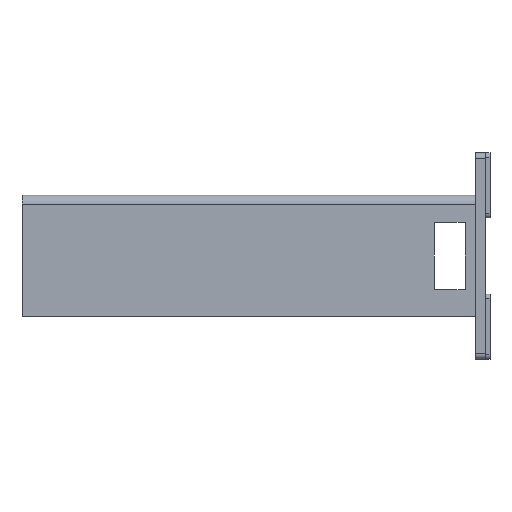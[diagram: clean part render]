
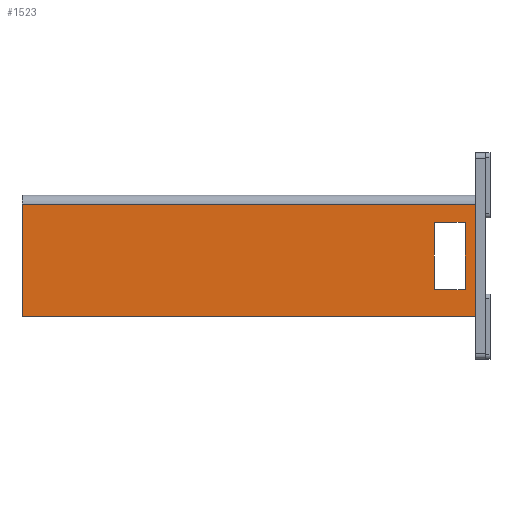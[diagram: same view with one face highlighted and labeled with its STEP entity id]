
A CAD part, left-side view. The second image highlights one B-rep face of the part: STEP entity #1523.
In plain terms, the highlighted planar face has unit normal (-1, 0, 0).
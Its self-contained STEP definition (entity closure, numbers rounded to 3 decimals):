
#32 = DIRECTION ( 'NONE',  ( 0., 0., -1. ) ) ;
#101 = CARTESIAN_POINT ( 'NONE',  ( -118., 99.9, 65. ) ) ;
#137 = DIRECTION ( 'NONE',  ( 0., 0., -1. ) ) ;
#195 = ORIENTED_EDGE ( 'NONE', *, *, #2480, .T. ) ;
#207 = DIRECTION ( 'NONE',  ( 0., 1., 0. ) ) ;
#259 = CARTESIAN_POINT ( 'NONE',  ( -118., 20., -118. ) ) ;
#270 = AXIS2_PLACEMENT_3D ( 'NONE', #4681, #2691, #3401 ) ;
#311 = VERTEX_POINT ( 'NONE', #2464 ) ;
#312 = CARTESIAN_POINT ( 'NONE',  ( -118., 40.1, 65. ) ) ;
#333 = VERTEX_POINT ( 'NONE', #2941 ) ;
#336 = ORIENTED_EDGE ( 'NONE', *, *, #4667, .T. ) ;
#547 = VERTEX_POINT ( 'NONE', #4802 ) ;
#688 = EDGE_CURVE ( 'NONE', #5345, #4656, #2634, .T. ) ;
#763 = VERTEX_POINT ( 'NONE', #312 ) ;
#764 = EDGE_CURVE ( 'NONE', #3326, #547, #4441, .T. ) ;
#773 = DIRECTION ( 'NONE',  ( 0., 0., 1. ) ) ;
#778 = EDGE_LOOP ( 'NONE', ( #4255, #3958, #3302, #195 ) ) ;
#782 = LINE ( 'NONE', #259, #5949 ) ;
#920 = CARTESIAN_POINT ( 'NONE',  ( -118., 99.9, -64.9 ) ) ;
#966 = LINE ( 'NONE', #4487, #2264 ) ;
#1001 = CARTESIAN_POINT ( 'NONE',  ( -118., 900., 100. ) ) ;
#1195 = VECTOR ( 'NONE', #1322, 1000. ) ;
#1322 = DIRECTION ( 'NONE',  ( 0., 0., -1. ) ) ;
#1356 = LINE ( 'NONE', #101, #4929 ) ;
#1409 = EDGE_CURVE ( 'NONE', #311, #333, #966, .T. ) ;
#1469 = VECTOR ( 'NONE', #2071, 1000. ) ;
#1516 = LINE ( 'NONE', #2007, #2817 ) ;
#1523 = ADVANCED_FACE ( 'NONE', ( #2485, #6180 ), #5646, .F. ) ;
#1540 = EDGE_LOOP ( 'NONE', ( #4367, #4928, #2912, #5087, #4517, #5353, #4416, #336 ) ) ;
#1556 = CARTESIAN_POINT ( 'NONE',  ( -118., 40., 64.9 ) ) ;
#1563 = VECTOR ( 'NONE', #207, 1000. ) ;
#1652 = EDGE_CURVE ( 'NONE', #4725, #5587, #6105, .T. ) ;
#1810 = AXIS2_PLACEMENT_3D ( 'NONE', #920, #3777, #4334 ) ;
#2007 = CARTESIAN_POINT ( 'NONE',  ( -118., 900., -118. ) ) ;
#2071 = DIRECTION ( 'NONE',  ( 0., -1., 0. ) ) ;
#2121 = DIRECTION ( 'NONE',  ( 0., 0., 1. ) ) ;
#2124 = EDGE_CURVE ( 'NONE', #333, #2190, #5510, .T. ) ;
#2174 = DIRECTION ( 'NONE',  ( 1., 0., 0. ) ) ;
#2190 = VERTEX_POINT ( 'NONE', #4871 ) ;
#2234 = VERTEX_POINT ( 'NONE', #5196 ) ;
#2261 = DIRECTION ( 'NONE',  ( 0., 0., -1. ) ) ;
#2264 = VECTOR ( 'NONE', #4466, 1000. ) ;
#2298 = EDGE_CURVE ( 'NONE', #2234, #547, #782, .T. ) ;
#2464 = CARTESIAN_POINT ( 'NONE',  ( -118., 100., -64.9 ) ) ;
#2480 = EDGE_CURVE ( 'NONE', #4801, #2234, #5875, .T. ) ;
#2485 = FACE_OUTER_BOUND ( 'NONE', #778, .T. ) ;
#2494 = DIRECTION ( 'NONE',  ( 1., 0., 0. ) ) ;
#2525 = CIRCLE ( 'NONE', #3381, 0.1 ) ;
#2634 = LINE ( 'NONE', #4231, #1195 ) ;
#2691 = DIRECTION ( 'NONE',  ( 1., 0., 0. ) ) ;
#2817 = VECTOR ( 'NONE', #2121, 1000. ) ;
#2912 = ORIENTED_EDGE ( 'NONE', *, *, #1652, .T. ) ;
#2941 = CARTESIAN_POINT ( 'NONE',  ( -118., 100., 64.9 ) ) ;
#3125 = CARTESIAN_POINT ( 'NONE',  ( -118., 99.9, -65. ) ) ;
#3189 = CARTESIAN_POINT ( 'NONE',  ( -118., 40.1, -64.9 ) ) ;
#3302 = ORIENTED_EDGE ( 'NONE', *, *, #5663, .F. ) ;
#3326 = VERTEX_POINT ( 'NONE', #1001 ) ;
#3365 = CIRCLE ( 'NONE', #1810, 0.1 ) ;
#3381 = AXIS2_PLACEMENT_3D ( 'NONE', #4994, #2174, #2261 ) ;
#3401 = DIRECTION ( 'NONE',  ( 0., 0., -1. ) ) ;
#3772 = CARTESIAN_POINT ( 'NONE',  ( -118., 40., -64.9 ) ) ;
#3777 = DIRECTION ( 'NONE',  ( 1., 0., 0. ) ) ;
#3792 = CARTESIAN_POINT ( 'NONE',  ( -118., 40.1, -65. ) ) ;
#3795 = EDGE_CURVE ( 'NONE', #4656, #4725, #4723, .T. ) ;
#3859 = AXIS2_PLACEMENT_3D ( 'NONE', #3189, #2494, #32 ) ;
#3958 = ORIENTED_EDGE ( 'NONE', *, *, #764, .F. ) ;
#4162 = CARTESIAN_POINT ( 'NONE',  ( -118., 900., 100. ) ) ;
#4231 = CARTESIAN_POINT ( 'NONE',  ( -118., 40., 64.9 ) ) ;
#4255 = ORIENTED_EDGE ( 'NONE', *, *, #2298, .T. ) ;
#4281 = VECTOR ( 'NONE', #4641, 1000. ) ;
#4334 = DIRECTION ( 'NONE',  ( 0., 0., 1. ) ) ;
#4367 = ORIENTED_EDGE ( 'NONE', *, *, #688, .T. ) ;
#4416 = ORIENTED_EDGE ( 'NONE', *, *, #5115, .T. ) ;
#4441 = LINE ( 'NONE', #4162, #4281 ) ;
#4466 = DIRECTION ( 'NONE',  ( 0., 0., 1. ) ) ;
#4487 = CARTESIAN_POINT ( 'NONE',  ( -118., 100., 64.9 ) ) ;
#4517 = ORIENTED_EDGE ( 'NONE', *, *, #1409, .T. ) ;
#4641 = DIRECTION ( 'NONE',  ( 0., -1., 0. ) ) ;
#4656 = VERTEX_POINT ( 'NONE', #3772 ) ;
#4667 = EDGE_CURVE ( 'NONE', #763, #5345, #2525, .T. ) ;
#4681 = CARTESIAN_POINT ( 'NONE',  ( -118., 900., -118. ) ) ;
#4723 = CIRCLE ( 'NONE', #3859, 0.1 ) ;
#4725 = VERTEX_POINT ( 'NONE', #3792 ) ;
#4801 = VERTEX_POINT ( 'NONE', #5013 ) ;
#4802 = CARTESIAN_POINT ( 'NONE',  ( -118., 20., 100. ) ) ;
#4871 = CARTESIAN_POINT ( 'NONE',  ( -118., 99.9, 65. ) ) ;
#4878 = CARTESIAN_POINT ( 'NONE',  ( -118., 99.9, -65. ) ) ;
#4922 = DIRECTION ( 'NONE',  ( 0., -1., 0. ) ) ;
#4928 = ORIENTED_EDGE ( 'NONE', *, *, #3795, .T. ) ;
#4929 = VECTOR ( 'NONE', #4922, 1000. ) ;
#4994 = CARTESIAN_POINT ( 'NONE',  ( -118., 40.1, 64.9 ) ) ;
#5013 = CARTESIAN_POINT ( 'NONE',  ( -118., 900., -118. ) ) ;
#5087 = ORIENTED_EDGE ( 'NONE', *, *, #6040, .T. ) ;
#5115 = EDGE_CURVE ( 'NONE', #2190, #763, #1356, .T. ) ;
#5196 = CARTESIAN_POINT ( 'NONE',  ( -118., 20., -118. ) ) ;
#5345 = VERTEX_POINT ( 'NONE', #1556 ) ;
#5353 = ORIENTED_EDGE ( 'NONE', *, *, #2124, .T. ) ;
#5510 = CIRCLE ( 'NONE', #6093, 0.1 ) ;
#5587 = VERTEX_POINT ( 'NONE', #4878 ) ;
#5646 = PLANE ( 'NONE',  #270 ) ;
#5663 = EDGE_CURVE ( 'NONE', #4801, #3326, #1516, .T. ) ;
#5875 = LINE ( 'NONE', #6010, #1469 ) ;
#5888 = CARTESIAN_POINT ( 'NONE',  ( -118., 99.9, 64.9 ) ) ;
#5939 = DIRECTION ( 'NONE',  ( 1., 0., 0. ) ) ;
#5949 = VECTOR ( 'NONE', #773, 1000. ) ;
#6010 = CARTESIAN_POINT ( 'NONE',  ( -118., 900., -118. ) ) ;
#6040 = EDGE_CURVE ( 'NONE', #5587, #311, #3365, .T. ) ;
#6093 = AXIS2_PLACEMENT_3D ( 'NONE', #5888, #5939, #137 ) ;
#6105 = LINE ( 'NONE', #3125, #1563 ) ;
#6180 = FACE_BOUND ( 'NONE', #1540, .T. ) ;
